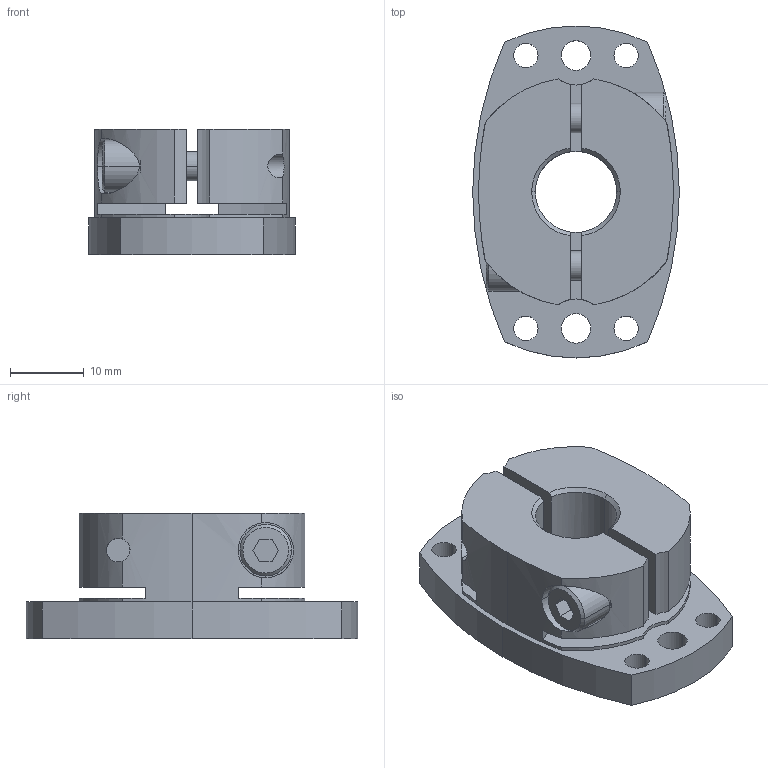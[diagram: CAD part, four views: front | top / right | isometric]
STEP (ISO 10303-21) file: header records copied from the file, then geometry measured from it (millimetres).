
FILE_DESCRIPTION((''),'2;1');
FILE_NAME('SHDB-45B-11.stp','2026-01-27T12:39:06',(''),(''),'AutoCAD STEP 2000i','AutoCAD 2000i',', , ');
FILE_SCHEMA(('CONFIG_CONTROL_DESIGN'));
Length unit declared in the file: millimetre
Products named in the file (2): SHDB-45B-10; 忣兜1
Assembly tree (1 placements, depth 2):
  SHDB-45B-10
    忣兜1
Bounding box: 28 x 45 x 17 mm (x, y, z)
Volume: 10777.9 mm3; surface area: 6034.5 mm2
Topology: 1 solids, 1 shells, 102 faces, 280 edges, 184 vertices
Faces by surface type: cylinder 58, plane 34, cone 10
Entity records: 3661 total; most frequent: CARTESIAN_POINT 834, DIRECTION 602, ORIENTED_EDGE 560, EDGE_CURVE 280, AXIS2_PLACEMENT_3D 238, VERTEX_POINT 184, CIRCLE 134, VECTOR 126
